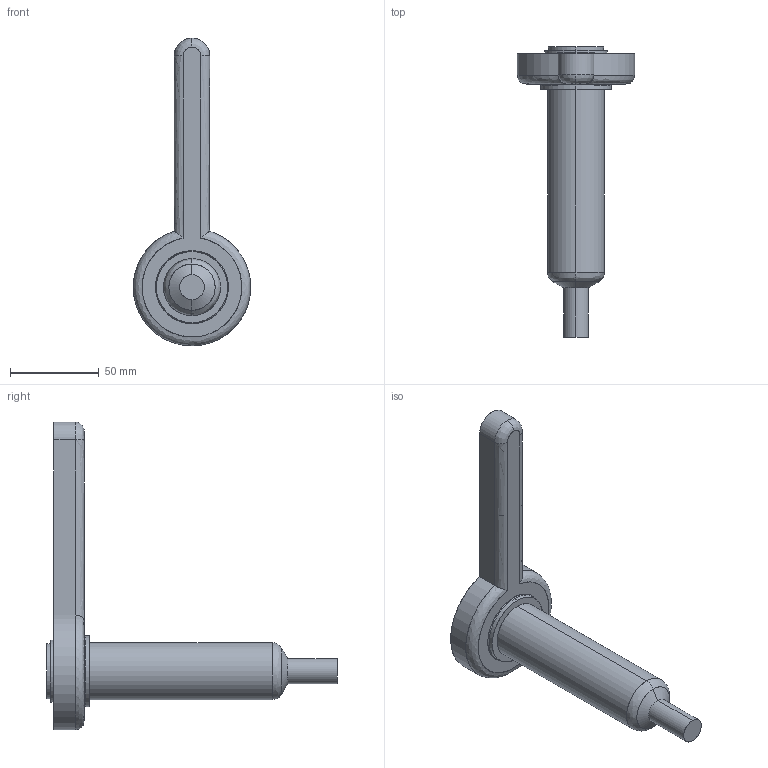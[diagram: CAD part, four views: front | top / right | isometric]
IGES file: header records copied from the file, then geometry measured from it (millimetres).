
Start section: SolidWorks IGES file using analytic representation for surfaces
Global section: file name: C:\Documents and Settings\ws-20\Desktop\TEMPORANEA\Sede UGBE4003-S-A C-114 L-136 P-25.IGS; native system: SolidWorks 2012; preprocessor: SolidWorks 2012; author: ws-20; date: 120306.141616; units: millimetre
Bounding box: 65.99 x 163.29 x 173 mm (x, y, z)
Surface area: 29881.1 mm2 (no closed solid volume)
Topology: 0 solids, 0 shells, 34 faces, 786 edges, 786 vertices
Faces by surface type: revolution 21, bspline 13
